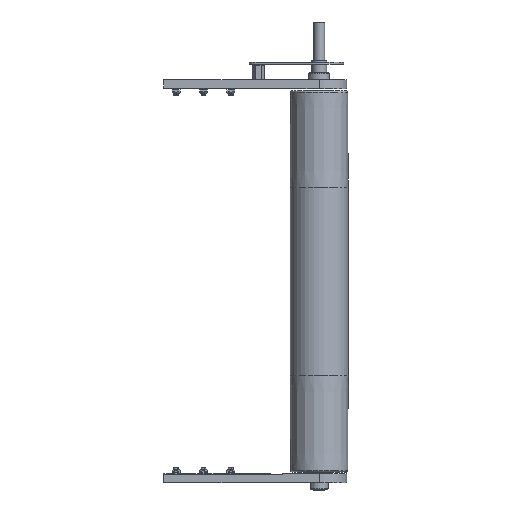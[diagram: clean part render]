
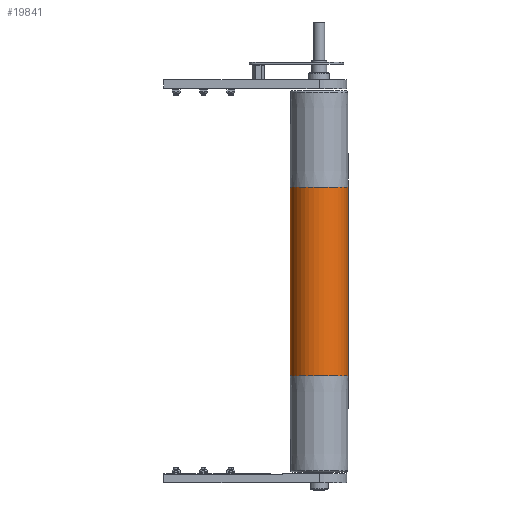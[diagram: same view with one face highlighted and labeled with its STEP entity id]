
A CAD part, front view. The second image highlights one B-rep face of the part: STEP entity #19841.
In plain terms, the highlighted cylindrical face has radius 47.5 mm (diameter 95 mm), a partial arc.
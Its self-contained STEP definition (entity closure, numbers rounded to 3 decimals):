
#2808 = CARTESIAN_POINT ( 'NONE',  ( 0., 0., 310. ) ) ;
#2810 = DIRECTION ( 'NONE',  ( 0., 0., -1. ) ) ;
#2812 = DIRECTION ( 'NONE',  ( -1., 0., 0. ) ) ;
#3843 = EDGE_LOOP ( 'NONE', ( #10144, #10142, #10140, #10138 ) ) ;
#6343 = CARTESIAN_POINT ( 'NONE',  ( -47.5, 0., -155. ) ) ;
#8854 = DIRECTION ( 'NONE',  ( 1., 0., 0. ) ) ;
#8856 = DIRECTION ( 'NONE',  ( 0., 0., 1. ) ) ;
#8860 = CARTESIAN_POINT ( 'NONE',  ( 0., 0., -155. ) ) ;
#8862 = DIRECTION ( 'NONE',  ( 1., 0., 0. ) ) ;
#8864 = DIRECTION ( 'NONE',  ( 0., 0., 1. ) ) ;
#8865 = CARTESIAN_POINT ( 'NONE',  ( 0., 0., 155. ) ) ;
#8898 = DIRECTION ( 'NONE',  ( 0., 0., -1. ) ) ;
#8902 = CARTESIAN_POINT ( 'NONE',  ( -47.5, 0., 310. ) ) ;
#8912 = CARTESIAN_POINT ( 'NONE',  ( 47.5, 0., 310. ) ) ;
#8919 = DIRECTION ( 'NONE',  ( 0., 0., -1. ) ) ;
#10138 = ORIENTED_EDGE ( 'NONE', *, *, #12542, .T. ) ;
#10140 = ORIENTED_EDGE ( 'NONE', *, *, #12536, .T. ) ;
#10142 = ORIENTED_EDGE ( 'NONE', *, *, #12541, .F. ) ;
#10144 = ORIENTED_EDGE ( 'NONE', *, *, #12535, .F. ) ;
#10675 = FACE_OUTER_BOUND ( 'NONE', #3843, .T. ) ;
#10679 = CYLINDRICAL_SURFACE ( 'NONE', #13654, 47.5 ) ;
#11921 = VERTEX_POINT ( 'NONE', #17378 ) ;
#11942 = VERTEX_POINT ( 'NONE', #17362 ) ;
#12060 = VERTEX_POINT ( 'NONE', #15694 ) ;
#12535 = EDGE_CURVE ( 'NONE', #11942, #11921, #16612, .T. ) ;
#12536 = EDGE_CURVE ( 'NONE', #12060, #15306, #16618, .T. ) ;
#12541 = EDGE_CURVE ( 'NONE', #12060, #11942, #16628, .T. ) ;
#12542 = EDGE_CURVE ( 'NONE', #15306, #11921, #16629, .T. ) ;
#13397 = AXIS2_PLACEMENT_3D ( 'NONE', #8865, #8864, #8862 ) ;
#13398 = AXIS2_PLACEMENT_3D ( 'NONE', #8860, #8856, #8854 ) ;
#13654 = AXIS2_PLACEMENT_3D ( 'NONE', #2808, #2810, #2812 ) ;
#15306 = VERTEX_POINT ( 'NONE', #6343 ) ;
#15694 = CARTESIAN_POINT ( 'NONE',  ( -47.5, 0., 155. ) ) ;
#16612 = LINE ( 'NONE', #8912, #16619 ) ;
#16618 = LINE ( 'NONE', #8902, #16622 ) ;
#16619 = VECTOR ( 'NONE', #8919, 1000. ) ;
#16622 = VECTOR ( 'NONE', #8898, 1000. ) ;
#16628 = CIRCLE ( 'NONE', #13397, 47.5 ) ;
#16629 = CIRCLE ( 'NONE', #13398, 47.5 ) ;
#17362 = CARTESIAN_POINT ( 'NONE',  ( 47.5, 0., 155. ) ) ;
#17378 = CARTESIAN_POINT ( 'NONE',  ( 47.5, 0., -155. ) ) ;
#19841 = ADVANCED_FACE ( 'NONE', ( #10675 ), #10679, .T. ) ;
